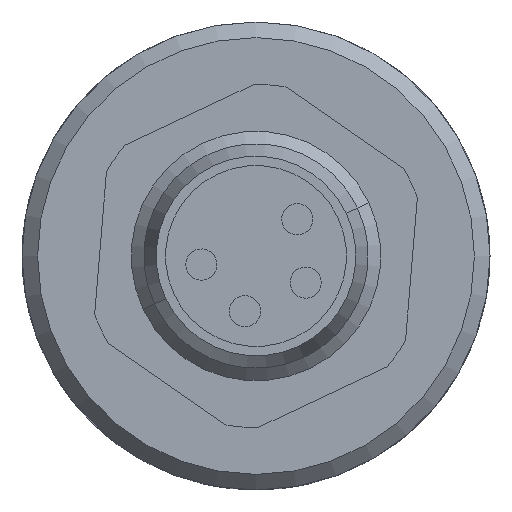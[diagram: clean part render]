
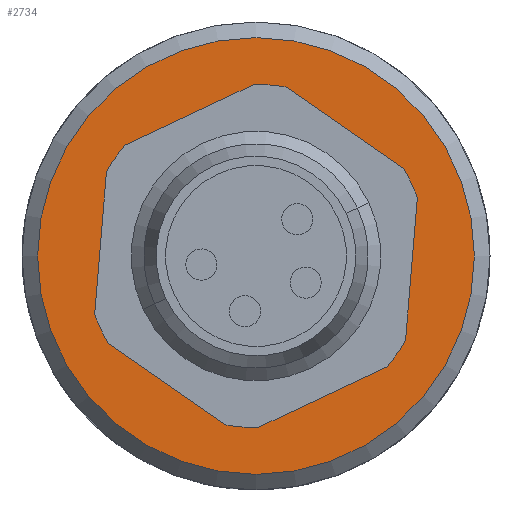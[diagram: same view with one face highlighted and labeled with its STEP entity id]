
A CAD part, left-side view. The second image highlights one B-rep face of the part: STEP entity #2734.
In plain terms, the highlighted planar face has unit normal (-1, 0, 0).
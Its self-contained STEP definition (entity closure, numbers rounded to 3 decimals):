
#633=PLANE('',#2909);
#691=CIRCLE('',#2896,3.75);
#698=CIRCLE('',#2907,7.);
#830=VERTEX_POINT('',#3864);
#846=VERTEX_POINT('',#3893);
#1158=EDGE_CURVE('',#830,#830,#691,.T.);
#1174=EDGE_CURVE('',#846,#846,#698,.T.);
#1584=ORIENTED_EDGE('',*,*,#1158,.T.);
#1585=ORIENTED_EDGE('',*,*,#1174,.F.);
#2353=EDGE_LOOP('',(#1584));
#2354=EDGE_LOOP('',(#1585));
#2548=FACE_BOUND('',#2353,.T.);
#2549=FACE_BOUND('',#2354,.T.);
#2734=ADVANCED_FACE('',(#2548,#2549),#633,.F.);
#2896=AXIS2_PLACEMENT_3D('',#3863,#3164,#3165);
#2907=AXIS2_PLACEMENT_3D('',#3892,#3187,#3188);
#2909=AXIS2_PLACEMENT_3D('',#3903,#3191,$);
#3164=DIRECTION('',(1.,0.,0.));
#3165=DIRECTION('',(0.,3.75,0.));
#3187=DIRECTION('',(1.,0.,0.));
#3188=DIRECTION('',(0.,0.,7.));
#3191=DIRECTION('',(1.,0.,0.));
#3863=CARTESIAN_POINT('',(-25.,0.,0.));
#3864=CARTESIAN_POINT('',(-25.,3.75,0.));
#3892=CARTESIAN_POINT('',(-25.,0.,0.));
#3893=CARTESIAN_POINT('',(-25.,0.,-7.));
#3903=CARTESIAN_POINT('',(-25.,0.,0.));
